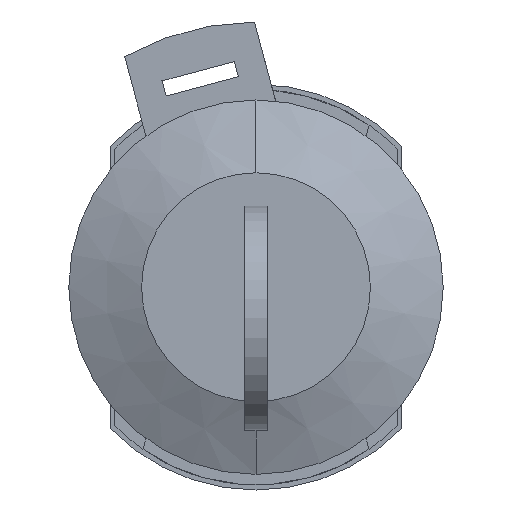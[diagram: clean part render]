
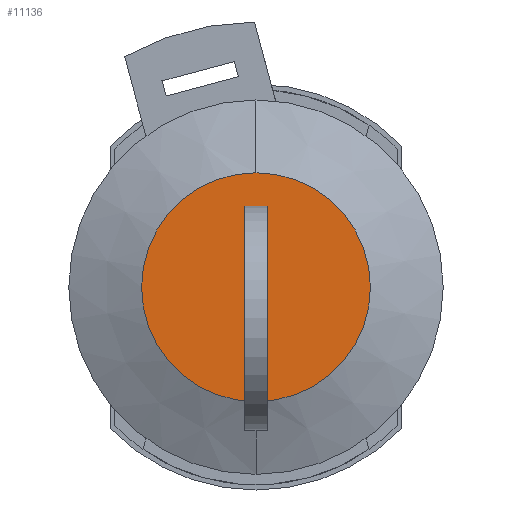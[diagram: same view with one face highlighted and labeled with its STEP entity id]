
A CAD part, left-side view. The second image highlights one B-rep face of the part: STEP entity #11136.
In plain terms, the highlighted planar face has unit normal (-1, 0, 0).
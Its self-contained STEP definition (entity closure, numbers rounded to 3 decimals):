
#431 = EDGE_CURVE ( 'NONE', #1287, #1987, #3118, .T. ) ;
#647 = VERTEX_POINT ( 'NONE', #3644 ) ;
#828 = EDGE_CURVE ( 'NONE', #3281, #647, #4071, .T. ) ;
#1287 = VERTEX_POINT ( 'NONE', #5216 ) ;
#1457 = EDGE_CURVE ( 'NONE', #647, #1287, #5913, .T. ) ;
#1932 = EDGE_CURVE ( 'NONE', #1987, #3281, #7562, .T. ) ;
#1987 = VERTEX_POINT ( 'NONE', #7736 ) ;
#3118 = LINE ( 'NONE', #3119, #3126 ) ;
#3119 = CARTESIAN_POINT ( 'NONE',  ( -16., 5.5, 2. ) ) ;
#3126 = VECTOR ( 'NONE', #3127, 1000. ) ;
#3127 = DIRECTION ( 'NONE',  ( 0., -1., 0. ) ) ;
#3281 = VERTEX_POINT ( 'NONE', #8860 ) ;
#3644 = CARTESIAN_POINT ( 'NONE',  ( -16., 1.1, -7. ) ) ;
#4071 = LINE ( 'NONE', #4072, #4073 ) ;
#4072 = CARTESIAN_POINT ( 'NONE',  ( -16., 5.5, -7. ) ) ;
#4073 = VECTOR ( 'NONE', #4074, 1000. ) ;
#4074 = DIRECTION ( 'NONE',  ( 0., 1., 0. ) ) ;
#5216 = CARTESIAN_POINT ( 'NONE',  ( -16., 1.1, 2. ) ) ;
#5913 = LINE ( 'NONE', #5914, #5915 ) ;
#5914 = CARTESIAN_POINT ( 'NONE',  ( -16., 1.1, 0. ) ) ;
#5915 = VECTOR ( 'NONE', #5916, 1000. ) ;
#5916 = DIRECTION ( 'NONE',  ( 0., 0., 1. ) ) ;
#5932 = CARTESIAN_POINT ( 'NONE',  ( -16., 0., 11. ) ) ;
#6260 = ORIENTED_EDGE ( 'NONE', *, *, #1932, .T. ) ;
#6771 = ORIENTED_EDGE ( 'NONE', *, *, #828, .T. ) ;
#7000 = EDGE_LOOP ( 'NONE', ( #10441, #10869 ) ) ;
#7426 = CIRCLE ( 'NONE', #7427, 11. ) ;
#7427 = AXIS2_PLACEMENT_3D ( 'NONE', #7428, #7429, #7430 ) ;
#7428 = CARTESIAN_POINT ( 'NONE',  ( -16., 0., 0. ) ) ;
#7429 = DIRECTION ( 'NONE',  ( 1., 0., 0. ) ) ;
#7430 = DIRECTION ( 'NONE',  ( 0., 0., -1. ) ) ;
#7562 = LINE ( 'NONE', #7563, #7564 ) ;
#7563 = CARTESIAN_POINT ( 'NONE',  ( -16., -1.1, 0. ) ) ;
#7564 = VECTOR ( 'NONE', #7565, 1000. ) ;
#7565 = DIRECTION ( 'NONE',  ( 0., 0., -1. ) ) ;
#7736 = CARTESIAN_POINT ( 'NONE',  ( -16., -1.1, 2. ) ) ;
#7945 = CIRCLE ( 'NONE', #7946, 11. ) ;
#7946 = AXIS2_PLACEMENT_3D ( 'NONE', #7947, #7948, #7949 ) ;
#7947 = CARTESIAN_POINT ( 'NONE',  ( -16., 0., 0. ) ) ;
#7948 = DIRECTION ( 'NONE',  ( 1., 0., 0. ) ) ;
#7949 = DIRECTION ( 'NONE',  ( 0., 0., -1. ) ) ;
#8071 = CARTESIAN_POINT ( 'NONE',  ( -16., 0., -11. ) ) ;
#8499 = FACE_BOUND ( 'NONE', #10906, .T. ) ;
#8500 = FACE_OUTER_BOUND ( 'NONE', #7000, .T. ) ;
#8501 = PLANE ( 'NONE',  #8502 ) ;
#8502 = AXIS2_PLACEMENT_3D ( 'NONE', #8503, #8504, #8505 ) ;
#8503 = CARTESIAN_POINT ( 'NONE',  ( -16., 5.5, 0. ) ) ;
#8504 = DIRECTION ( 'NONE',  ( -1., 0., 0. ) ) ;
#8505 = DIRECTION ( 'NONE',  ( 0., 0., 1. ) ) ;
#8860 = CARTESIAN_POINT ( 'NONE',  ( -16., -1.1, -7. ) ) ;
#9175 = VERTEX_POINT ( 'NONE', #5932 ) ;
#10441 = ORIENTED_EDGE ( 'NONE', *, *, #10999, .F. ) ;
#10869 = ORIENTED_EDGE ( 'NONE', *, *, #10884, .F. ) ;
#10884 = EDGE_CURVE ( 'NONE', #9175, #11033, #7426, .T. ) ;
#10906 = EDGE_LOOP ( 'NONE', ( #10992, #11094, #6260, #6771 ) ) ;
#10992 = ORIENTED_EDGE ( 'NONE', *, *, #1457, .T. ) ;
#10999 = EDGE_CURVE ( 'NONE', #11033, #9175, #7945, .T. ) ;
#11033 = VERTEX_POINT ( 'NONE', #8071 ) ;
#11094 = ORIENTED_EDGE ( 'NONE', *, *, #431, .T. ) ;
#11136 = ADVANCED_FACE ( 'NONE', ( #8499, #8500 ), #8501, .T. ) ;
